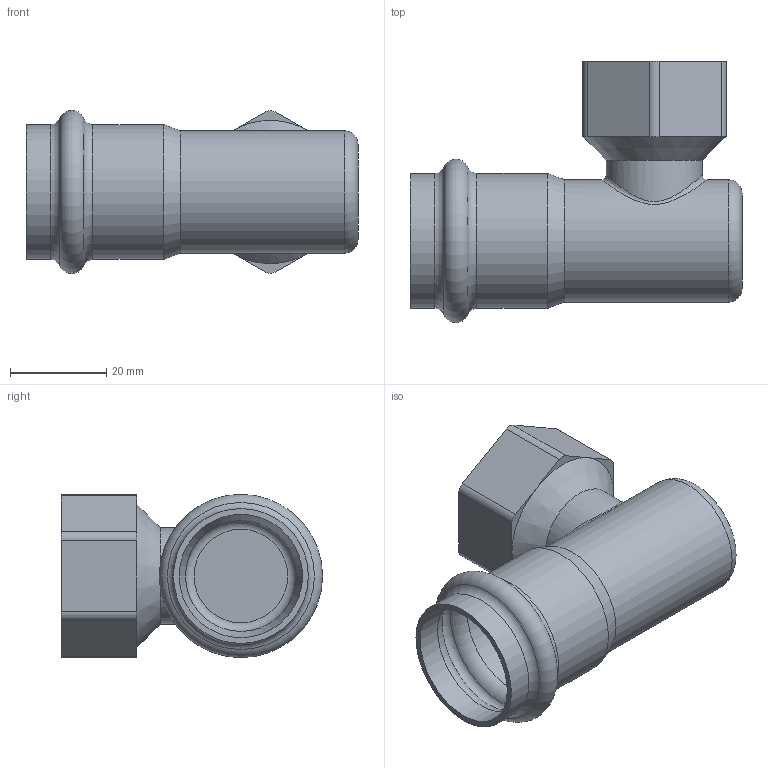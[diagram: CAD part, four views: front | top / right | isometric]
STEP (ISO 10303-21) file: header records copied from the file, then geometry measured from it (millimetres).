
FILE_DESCRIPTION(/* description */ (''),/* implementation_level */ '2;1');
FILE_NAME(/* name */ '51269020101.stp',/* time_stamp */ '2020-06-22T14:55:28+08:00',/* author */ (''),/* organization */ (''),/* preprocessor_version */ 'ST-DEVELOPER v11',/* originating_system */ 'SIEMENS PLM Software NX 7.5',/* authorisation */ '');
FILE_SCHEMA (('CONFIG_CONTROL_DESIGN'));
Length unit declared in the file: millimetre
Products named in the file (1): Admi4F60b49v
Bounding box: 68.9 x 54.19 x 33.9 mm (x, y, z)
Volume: 12929.2 mm3; surface area: 16607.6 mm2
Topology: 1 solids, 1 shells, 45 faces, 99 edges, 58 vertices
Faces by surface type: plane 16, cylinder 15, torus 8, cone 5, bspline 1
Full cylindrical faces by diameter (mm): 18.4 x1, 20 x1, 23 x1, 24.117 x1, 25.4 x1, 25.6 x2, 28 x2
Entity records: 1369 total; most frequent: CARTESIAN_POINT 376, DIRECTION 202, ORIENTED_EDGE 148, AXIS2_PLACEMENT_3D 86, EDGE_CURVE 74, EDGE_LOOP 72, VERTEX_POINT 56, FACE_BOUND 52
